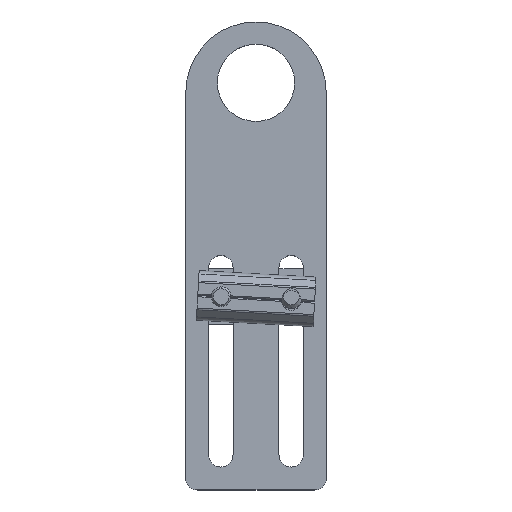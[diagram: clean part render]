
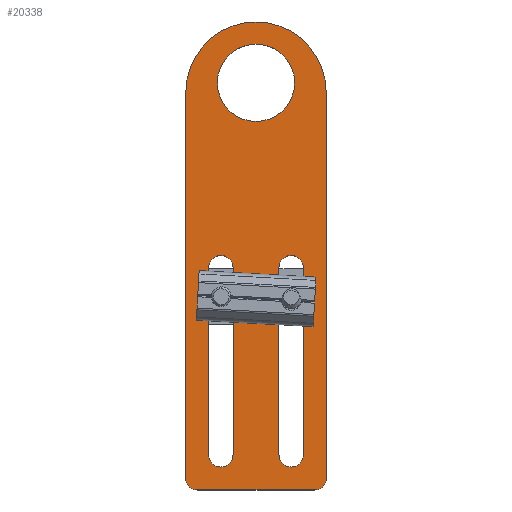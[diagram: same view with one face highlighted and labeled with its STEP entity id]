
A CAD part, top view. The second image highlights one B-rep face of the part: STEP entity #20338.
In plain terms, the highlighted planar face has unit normal (0, 0, 1).
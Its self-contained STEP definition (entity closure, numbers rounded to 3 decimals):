
#44 = ORIENTED_EDGE ( 'NONE', *, *, #15789, .F. ) ;
#190 = DIRECTION ( 'NONE',  ( 0., 0., 1. ) ) ;
#367 = ORIENTED_EDGE ( 'NONE', *, *, #8220, .F. ) ;
#665 = EDGE_CURVE ( 'NONE', #10610, #18067, #2160, .T. ) ;
#675 = CARTESIAN_POINT ( 'NONE',  ( -105.453, 38.337, 60.592 ) ) ;
#797 = VECTOR ( 'NONE', #10225, 1000. ) ;
#840 = VERTEX_POINT ( 'NONE', #21271 ) ;
#938 = CARTESIAN_POINT ( 'NONE',  ( -118.603, -1.163, 60.592 ) ) ;
#1238 = VERTEX_POINT ( 'NONE', #938 ) ;
#1395 = EDGE_LOOP ( 'NONE', ( #17007, #20883, #1580, #22377, #10740, #18508 ) ) ;
#1580 = ORIENTED_EDGE ( 'NONE', *, *, #16335, .F. ) ;
#1629 = VERTEX_POINT ( 'NONE', #17303 ) ;
#1774 = VERTEX_POINT ( 'NONE', #21711 ) ;
#1886 = VECTOR ( 'NONE', #6735, 1000. ) ;
#2146 = CARTESIAN_POINT ( 'NONE',  ( -103.603, -41.163, 60.592 ) ) ;
#2160 = LINE ( 'NONE', #25026, #11858 ) ;
#2405 = CIRCLE ( 'NONE', #18851, 2.6 ) ;
#3134 = EDGE_CURVE ( 'NONE', #18067, #23374, #6041, .T. ) ;
#3575 = EDGE_LOOP ( 'NONE', ( #367, #4981, #17935, #17318 ) ) ;
#3590 = FACE_BOUND ( 'NONE', #3575, .T. ) ;
#3765 = AXIS2_PLACEMENT_3D ( 'NONE', #11204, #24593, #13121 ) ;
#3779 = CARTESIAN_POINT ( 'NONE',  ( -113.703, 38.337, 60.592 ) ) ;
#4060 = VERTEX_POINT ( 'NONE', #12410 ) ;
#4297 = VERTEX_POINT ( 'NONE', #23632 ) ;
#4492 = CARTESIAN_POINT ( 'NONE',  ( -123.803, 1.637, 60.592 ) ) ;
#4981 = ORIENTED_EDGE ( 'NONE', *, *, #24430, .F. ) ;
#5029 = EDGE_LOOP ( 'NONE', ( #44, #24493, #9217, #22675 ) ) ;
#5593 = DIRECTION ( 'NONE',  ( 0., 1., 0. ) ) ;
#5735 = DIRECTION ( 'NONE',  ( -1., 0., 0. ) ) ;
#6041 = CIRCLE ( 'NONE', #8752, 2.6 ) ;
#6735 = DIRECTION ( 'NONE',  ( 0., 1., 0. ) ) ;
#6826 = CARTESIAN_POINT ( 'NONE',  ( -106.203, -1.163, 60.592 ) ) ;
#7115 = CARTESIAN_POINT ( 'NONE',  ( -98.703, -48.663, 60.592 ) ) ;
#7641 = DIRECTION ( 'NONE',  ( 0., -1., 0. ) ) ;
#7698 = DIRECTION ( 'NONE',  ( 0., 1., 0. ) ) ;
#7838 = CARTESIAN_POINT ( 'NONE',  ( -121.953, 38.337, 60.592 ) ) ;
#7873 = CARTESIAN_POINT ( 'NONE',  ( -108.803, -1.163, 60.592 ) ) ;
#8215 = VERTEX_POINT ( 'NONE', #23319 ) ;
#8220 = EDGE_CURVE ( 'NONE', #1774, #12855, #2405, .T. ) ;
#8261 = CARTESIAN_POINT ( 'NONE',  ( -113.703, -48.663, 60.592 ) ) ;
#8318 = AXIS2_PLACEMENT_3D ( 'NONE', #3779, #17262, #5735 ) ;
#8712 = CIRCLE ( 'NONE', #24240, 2.5 ) ;
#8752 = AXIS2_PLACEMENT_3D ( 'NONE', #11830, #190, #13758 ) ;
#8782 = DIRECTION ( 'NONE',  ( -1., 0., 0. ) ) ;
#8994 = CARTESIAN_POINT ( 'NONE',  ( -101.203, -46.163, 60.592 ) ) ;
#9069 = DIRECTION ( 'NONE',  ( -1., 0., 0. ) ) ;
#9217 = ORIENTED_EDGE ( 'NONE', *, *, #3134, .F. ) ;
#9367 = FACE_BOUND ( 'NONE', #5029, .T. ) ;
#9815 = LINE ( 'NONE', #18247, #1886 ) ;
#9936 = CARTESIAN_POINT ( 'NONE',  ( -118.603, -41.163, 60.592 ) ) ;
#10041 = CARTESIAN_POINT ( 'NONE',  ( -121.203, -41.163, 60.592 ) ) ;
#10042 = EDGE_CURVE ( 'NONE', #23374, #15809, #19164, .T. ) ;
#10225 = DIRECTION ( 'NONE',  ( -1., 0., 0. ) ) ;
#10398 = AXIS2_PLACEMENT_3D ( 'NONE', #10651, #24019, #12528 ) ;
#10572 = CARTESIAN_POINT ( 'NONE',  ( -126.203, -46.163, 60.592 ) ) ;
#10610 = VERTEX_POINT ( 'NONE', #7873 ) ;
#10651 = CARTESIAN_POINT ( 'NONE',  ( -121.203, -1.163, 60.592 ) ) ;
#10740 = ORIENTED_EDGE ( 'NONE', *, *, #13798, .F. ) ;
#10864 = VERTEX_POINT ( 'NONE', #14660 ) ;
#10930 = DIRECTION ( 'NONE',  ( -1., 0., 0. ) ) ;
#11032 = ORIENTED_EDGE ( 'NONE', *, *, #13343, .F. ) ;
#11204 = CARTESIAN_POINT ( 'NONE',  ( -113.703, 36.337, 60.592 ) ) ;
#11588 = DIRECTION ( 'NONE',  ( 0., 0., 1. ) ) ;
#11799 = DIRECTION ( 'NONE',  ( 0., -1., 0. ) ) ;
#11830 = CARTESIAN_POINT ( 'NONE',  ( -106.203, -41.163, 60.592 ) ) ;
#11858 = VECTOR ( 'NONE', #11799, 1000. ) ;
#11926 = DIRECTION ( 'NONE',  ( -1., 0., 0. ) ) ;
#12090 = CIRCLE ( 'NONE', #8318, 8.25 ) ;
#12359 = VERTEX_POINT ( 'NONE', #23504 ) ;
#12410 = CARTESIAN_POINT ( 'NONE',  ( -123.803, -1.163, 60.592 ) ) ;
#12459 = DIRECTION ( 'NONE',  ( -1., 0., 0. ) ) ;
#12528 = DIRECTION ( 'NONE',  ( -1., 0., 0. ) ) ;
#12855 = VERTEX_POINT ( 'NONE', #9936 ) ;
#13121 = DIRECTION ( 'NONE',  ( -1., 0., 0. ) ) ;
#13176 = VECTOR ( 'NONE', #7641, 1000. ) ;
#13343 = EDGE_CURVE ( 'NONE', #20863, #21208, #12090, .T. ) ;
#13758 = DIRECTION ( 'NONE',  ( -1., 0., 0. ) ) ;
#13798 = EDGE_CURVE ( 'NONE', #4297, #10864, #21039, .T. ) ;
#13857 = FACE_BOUND ( 'NONE', #18636, .T. ) ;
#13993 = CARTESIAN_POINT ( 'NONE',  ( -108.803, -41.163, 60.592 ) ) ;
#13998 = EDGE_CURVE ( 'NONE', #8215, #12359, #16242, .T. ) ;
#14437 = EDGE_CURVE ( 'NONE', #10864, #1629, #18293, .T. ) ;
#14634 = VECTOR ( 'NONE', #7698, 1000. ) ;
#14660 = CARTESIAN_POINT ( 'NONE',  ( -98.703, 36.337, 60.592 ) ) ;
#14751 = AXIS2_PLACEMENT_3D ( 'NONE', #10572, #23932, #12459 ) ;
#14893 = CIRCLE ( 'NONE', #10398, 2.6 ) ;
#15010 = AXIS2_PLACEMENT_3D ( 'NONE', #23050, #11588, #24972 ) ;
#15113 = EDGE_CURVE ( 'NONE', #840, #4297, #19719, .T. ) ;
#15343 = CARTESIAN_POINT ( 'NONE',  ( -128.703, 1.637, 60.592 ) ) ;
#15517 = ORIENTED_EDGE ( 'NONE', *, *, #22838, .F. ) ;
#15778 = EDGE_CURVE ( 'NONE', #12359, #840, #21951, .T. ) ;
#15789 = EDGE_CURVE ( 'NONE', #15809, #10610, #19557, .T. ) ;
#15809 = VERTEX_POINT ( 'NONE', #16319 ) ;
#16242 = LINE ( 'NONE', #8261, #797 ) ;
#16319 = CARTESIAN_POINT ( 'NONE',  ( -103.603, -1.163, 60.592 ) ) ;
#16335 = EDGE_CURVE ( 'NONE', #1629, #8215, #8712, .T. ) ;
#17007 = ORIENTED_EDGE ( 'NONE', *, *, #15778, .F. ) ;
#17186 = VECTOR ( 'NONE', #21801, 1000. ) ;
#17262 = DIRECTION ( 'NONE',  ( 0., 0., 1. ) ) ;
#17303 = CARTESIAN_POINT ( 'NONE',  ( -98.703, -46.163, 60.592 ) ) ;
#17318 = ORIENTED_EDGE ( 'NONE', *, *, #22362, .F. ) ;
#17935 = ORIENTED_EDGE ( 'NONE', *, *, #22368, .F. ) ;
#18067 = VERTEX_POINT ( 'NONE', #13993 ) ;
#18247 = CARTESIAN_POINT ( 'NONE',  ( -118.603, 1.637, 60.592 ) ) ;
#18293 = LINE ( 'NONE', #21040, #13176 ) ;
#18508 = ORIENTED_EDGE ( 'NONE', *, *, #15113, .F. ) ;
#18636 = EDGE_LOOP ( 'NONE', ( #15517, #11032 ) ) ;
#18747 = CIRCLE ( 'NONE', #15010, 8.25 ) ;
#18851 = AXIS2_PLACEMENT_3D ( 'NONE', #10041, #23405, #11926 ) ;
#19023 = CARTESIAN_POINT ( 'NONE',  ( -103.603, 1.637, 60.592 ) ) ;
#19164 = LINE ( 'NONE', #19023, #24263 ) ;
#19557 = CIRCLE ( 'NONE', #23737, 2.6 ) ;
#19719 = LINE ( 'NONE', #15343, #14634 ) ;
#20255 = DIRECTION ( 'NONE',  ( 0., 0., 1. ) ) ;
#20338 = ADVANCED_FACE ( 'NONE', ( #3590, #13857, #9367, #23446 ), #24298, .F. ) ;
#20533 = DIRECTION ( 'NONE',  ( 0., 0., -1. ) ) ;
#20863 = VERTEX_POINT ( 'NONE', #675 ) ;
#20883 = ORIENTED_EDGE ( 'NONE', *, *, #13998, .F. ) ;
#21039 = CIRCLE ( 'NONE', #3765, 15. ) ;
#21040 = CARTESIAN_POINT ( 'NONE',  ( -98.703, 1.637, 60.592 ) ) ;
#21208 = VERTEX_POINT ( 'NONE', #7838 ) ;
#21271 = CARTESIAN_POINT ( 'NONE',  ( -128.703, -46.163, 60.592 ) ) ;
#21711 = CARTESIAN_POINT ( 'NONE',  ( -123.803, -41.163, 60.592 ) ) ;
#21801 = DIRECTION ( 'NONE',  ( 0., -1., 0. ) ) ;
#21822 = AXIS2_PLACEMENT_3D ( 'NONE', #7115, #20533, #9069 ) ;
#21951 = CIRCLE ( 'NONE', #14751, 2.5 ) ;
#22275 = LINE ( 'NONE', #4492, #17186 ) ;
#22362 = EDGE_CURVE ( 'NONE', #12855, #1238, #9815, .T. ) ;
#22368 = EDGE_CURVE ( 'NONE', #1238, #4060, #14893, .T. ) ;
#22377 = ORIENTED_EDGE ( 'NONE', *, *, #14437, .F. ) ;
#22380 = DIRECTION ( 'NONE',  ( 0., 0., -1. ) ) ;
#22675 = ORIENTED_EDGE ( 'NONE', *, *, #665, .F. ) ;
#22838 = EDGE_CURVE ( 'NONE', #21208, #20863, #18747, .T. ) ;
#23050 = CARTESIAN_POINT ( 'NONE',  ( -113.703, 38.337, 60.592 ) ) ;
#23319 = CARTESIAN_POINT ( 'NONE',  ( -101.203, -48.663, 60.592 ) ) ;
#23374 = VERTEX_POINT ( 'NONE', #2146 ) ;
#23405 = DIRECTION ( 'NONE',  ( 0., 0., 1. ) ) ;
#23446 = FACE_OUTER_BOUND ( 'NONE', #1395, .T. ) ;
#23504 = CARTESIAN_POINT ( 'NONE',  ( -126.203, -48.663, 60.592 ) ) ;
#23632 = CARTESIAN_POINT ( 'NONE',  ( -128.703, 36.337, 60.592 ) ) ;
#23737 = AXIS2_PLACEMENT_3D ( 'NONE', #6826, #20255, #8782 ) ;
#23932 = DIRECTION ( 'NONE',  ( 0., 0., -1. ) ) ;
#24019 = DIRECTION ( 'NONE',  ( 0., 0., 1. ) ) ;
#24240 = AXIS2_PLACEMENT_3D ( 'NONE', #8994, #22380, #10930 ) ;
#24263 = VECTOR ( 'NONE', #5593, 1000. ) ;
#24298 = PLANE ( 'NONE',  #21822 ) ;
#24430 = EDGE_CURVE ( 'NONE', #4060, #1774, #22275, .T. ) ;
#24493 = ORIENTED_EDGE ( 'NONE', *, *, #10042, .F. ) ;
#24593 = DIRECTION ( 'NONE',  ( 0., 0., -1. ) ) ;
#24972 = DIRECTION ( 'NONE',  ( -1., 0., 0. ) ) ;
#25026 = CARTESIAN_POINT ( 'NONE',  ( -108.803, 1.637, 60.592 ) ) ;
